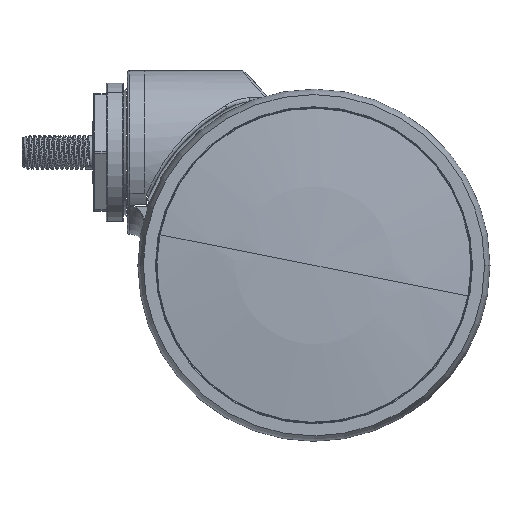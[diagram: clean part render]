
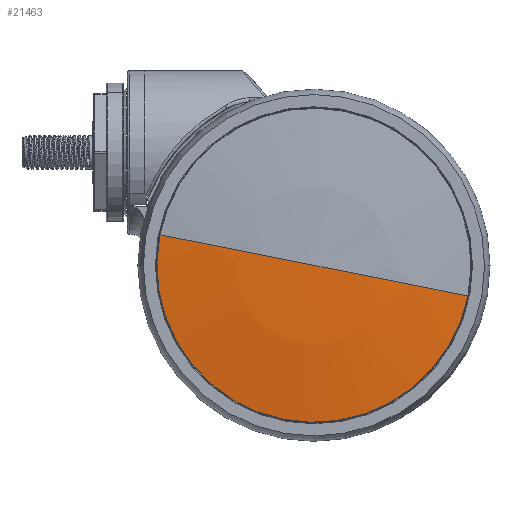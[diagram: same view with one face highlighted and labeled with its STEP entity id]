
A CAD part, left-side view. The second image highlights one B-rep face of the part: STEP entity #21463.
In plain terms, the highlighted spherical face has radius 417.771 mm.
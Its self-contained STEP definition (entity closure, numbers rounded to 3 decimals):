
#21400=CARTESIAN_POINT('',(-42.523,0.,0.));
#21401=DIRECTION('',(-1.,0.,0.));
#21402=DIRECTION('',(0.,0.981,0.195));
#21403=AXIS2_PLACEMENT_3D('',#21400,#21401,#21402);
#21430=CARTESIAN_POINT('',(371.521,0.,0.));
#21431=DIRECTION('',(0.,0.195,-0.981));
#21432=DIRECTION('',(-0.991,-0.131,-0.026));
#21433=AXIS2_PLACEMENT_3D('',#21430,#21431,#21432);
#21435=CARTESIAN_POINT('',(371.521,0.,0.));
#21436=DIRECTION('',(0.,-0.195,0.981));
#21437=DIRECTION('',(-0.991,0.131,0.026));
#21438=AXIS2_PLACEMENT_3D('',#21435,#21436,#21437);
#21440=CARTESIAN_POINT('',(-42.523,-54.607,
-10.862));
#21441=CARTESIAN_POINT('',(-42.523,54.607,
10.862));
#21442=VERTEX_POINT('',#21440);
#21443=VERTEX_POINT('',#21441);
#21448=CARTESIAN_POINT('',(-46.25,0.,0.));
#21449=VERTEX_POINT('',#21448);
#21450=CARTESIAN_POINT('',(371.521,0.,0.));
#21451=DIRECTION('',(1.,0.,0.));
#21452=DIRECTION('',(0.,0.981,0.195));
#21453=AXIS2_PLACEMENT_3D('',#21450,#21451,#21452);
#21454=SPHERICAL_SURFACE('',#21453,417.771);
#21456=ORIENTED_EDGE('',*,*,#21455,.F.);
#21458=ORIENTED_EDGE('',*,*,#21457,.T.);
#21460=ORIENTED_EDGE('',*,*,#21459,.F.);
#21461=EDGE_LOOP('',(#21456,#21458,#21460));
#21462=FACE_OUTER_BOUND('',#21461,.F.);
#21404=CIRCLE('',#21403,55.677);
#21434=CIRCLE('',#21433,417.771);
#21439=CIRCLE('',#21438,417.771);
#21455=EDGE_CURVE('',#21443,#21442,#21404,.T.);
#21457=EDGE_CURVE('',#21443,#21449,#21439,.T.);
#21459=EDGE_CURVE('',#21442,#21449,#21434,.T.);
#21463=ADVANCED_FACE('',(#21462),#21454,.T.);
